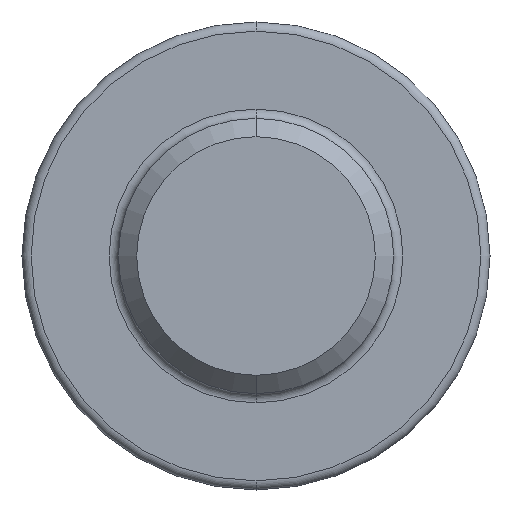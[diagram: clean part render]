
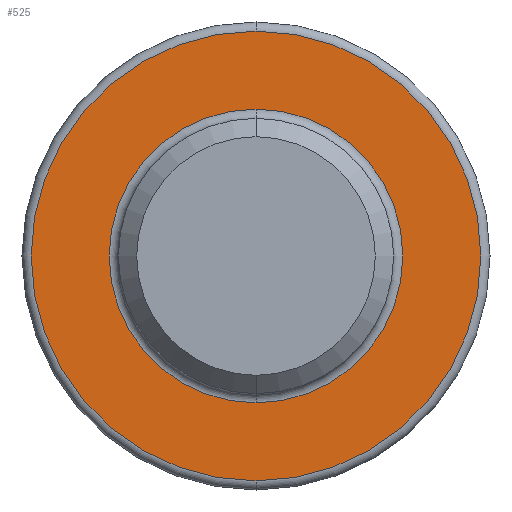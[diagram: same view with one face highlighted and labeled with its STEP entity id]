
A CAD part, front view. The second image highlights one B-rep face of the part: STEP entity #525.
In plain terms, the highlighted planar face has unit normal (0, -1, 0).
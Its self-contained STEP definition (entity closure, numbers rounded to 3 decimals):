
#4 = CARTESIAN_POINT ( 'NONE',  ( 0., -3.2, 0. ) ) ;
#49 = ORIENTED_EDGE ( 'NONE', *, *, #711, .T. ) ;
#56 = AXIS2_PLACEMENT_3D ( 'NONE', #859, #397, #666 ) ;
#62 = DIRECTION ( 'NONE',  ( 0., -1., 0. ) ) ;
#66 = CARTESIAN_POINT ( 'NONE',  ( 0., -3.2, 0. ) ) ;
#124 = FACE_OUTER_BOUND ( 'NONE', #544, .T. ) ;
#132 = ORIENTED_EDGE ( 'NONE', *, *, #763, .T. ) ;
#147 = DIRECTION ( 'NONE',  ( 0., 1., 0. ) ) ;
#206 = DIRECTION ( 'NONE',  ( 0., -1., 0. ) ) ;
#210 = CIRCLE ( 'NONE', #699, 3.2 ) ;
#265 = ORIENTED_EDGE ( 'NONE', *, *, #505, .T. ) ;
#320 = CIRCLE ( 'NONE', #811, 4.9 ) ;
#331 = DIRECTION ( 'NONE',  ( 0., 0., 1. ) ) ;
#361 = AXIS2_PLACEMENT_3D ( 'NONE', #4, #206, #418 ) ;
#369 = CARTESIAN_POINT ( 'NONE',  ( 0., -3.2, -3.2 ) ) ;
#393 = PLANE ( 'NONE',  #56 ) ;
#397 = DIRECTION ( 'NONE',  ( 0., 1., 0. ) ) ;
#403 = VERTEX_POINT ( 'NONE', #369 ) ;
#418 = DIRECTION ( 'NONE',  ( 0., 0., 1. ) ) ;
#421 = VERTEX_POINT ( 'NONE', #769 ) ;
#432 = CARTESIAN_POINT ( 'NONE',  ( 0., -3.2, 0. ) ) ;
#440 = ORIENTED_EDGE ( 'NONE', *, *, #685, .T. ) ;
#448 = CIRCLE ( 'NONE', #361, 4.9 ) ;
#452 = EDGE_LOOP ( 'NONE', ( #132, #440 ) ) ;
#468 = CARTESIAN_POINT ( 'NONE',  ( 0., -3.2, 4.9 ) ) ;
#490 = DIRECTION ( 'NONE',  ( 0., 1., 0. ) ) ;
#505 = EDGE_CURVE ( 'NONE', #664, #421, #320, .T. ) ;
#516 = CARTESIAN_POINT ( 'NONE',  ( 0., -3.2, 0. ) ) ;
#525 = ADVANCED_FACE ( 'NONE', ( #593, #124 ), #393, .F. ) ;
#527 = VERTEX_POINT ( 'NONE', #849 ) ;
#544 = EDGE_LOOP ( 'NONE', ( #265, #49 ) ) ;
#593 = FACE_BOUND ( 'NONE', #452, .T. ) ;
#664 = VERTEX_POINT ( 'NONE', #468 ) ;
#666 = DIRECTION ( 'NONE',  ( 0., 0., 1. ) ) ;
#685 = EDGE_CURVE ( 'NONE', #403, #527, #210, .T. ) ;
#688 = AXIS2_PLACEMENT_3D ( 'NONE', #432, #490, #827 ) ;
#699 = AXIS2_PLACEMENT_3D ( 'NONE', #66, #147, #331 ) ;
#711 = EDGE_CURVE ( 'NONE', #421, #664, #448, .T. ) ;
#763 = EDGE_CURVE ( 'NONE', #527, #403, #820, .T. ) ;
#769 = CARTESIAN_POINT ( 'NONE',  ( 0., -3.2, -4.9 ) ) ;
#775 = DIRECTION ( 'NONE',  ( 0., 0., 1. ) ) ;
#811 = AXIS2_PLACEMENT_3D ( 'NONE', #516, #62, #775 ) ;
#820 = CIRCLE ( 'NONE', #688, 3.2 ) ;
#827 = DIRECTION ( 'NONE',  ( 0., 0., 1. ) ) ;
#849 = CARTESIAN_POINT ( 'NONE',  ( 0., -3.2, 3.2 ) ) ;
#859 = CARTESIAN_POINT ( 'NONE',  ( 3., -3.2, 0. ) ) ;
